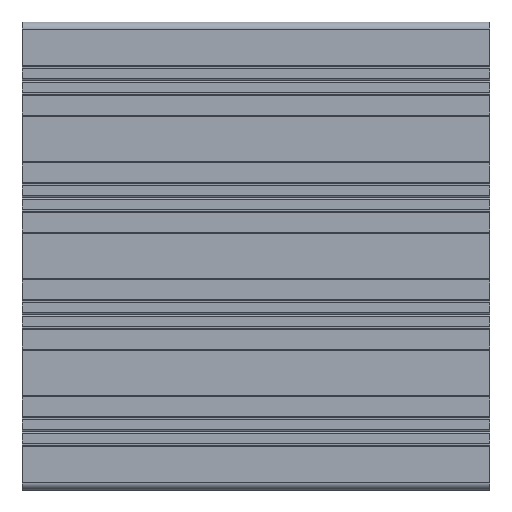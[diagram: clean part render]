
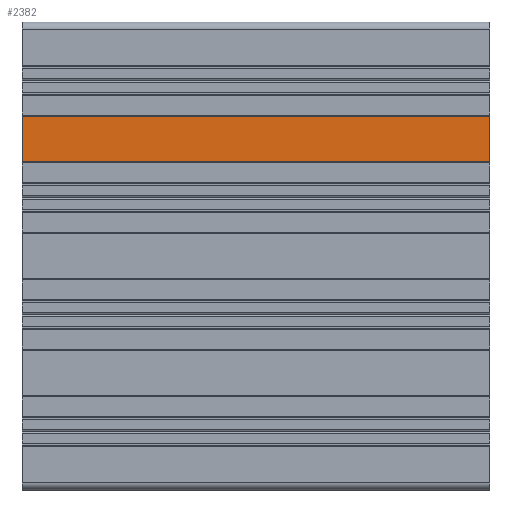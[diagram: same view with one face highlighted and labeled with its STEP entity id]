
A CAD part, left-side view. The second image highlights one B-rep face of the part: STEP entity #2382.
In plain terms, the highlighted planar face has unit normal (-1, 0, 0).
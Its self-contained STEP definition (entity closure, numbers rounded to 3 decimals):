
#2382 = ADVANCED_FACE( '', ( #5264 ), #5265, .F. );
#5264 = FACE_OUTER_BOUND( '', #8643, .T. );
#5265 = PLANE( '', #8644 );
#8643 = EDGE_LOOP( '', ( #16219, #16220, #16221, #16222 ) );
#8644 = AXIS2_PLACEMENT_3D( '', #16223, #16224, #16225 );
#16219 = ORIENTED_EDGE( '', *, *, #24513, .T. );
#16220 = ORIENTED_EDGE( '', *, *, #23067, .F. );
#16221 = ORIENTED_EDGE( '', *, *, #22380, .F. );
#16222 = ORIENTED_EDGE( '', *, *, #21672, .T. );
#16223 = CARTESIAN_POINT( '', ( -49., 200., 59.8 ) );
#16224 = DIRECTION( '', ( 1., 0., 0. ) );
#16225 = DIRECTION( '', ( 0., 0., -1. ) );
#21672 = EDGE_CURVE( '', #26442, #26440, #26443, .T. );
#22380 = EDGE_CURVE( '', #26442, #27776, #27777, .T. );
#23067 = EDGE_CURVE( '', #27776, #28958, #28962, .T. );
#24513 = EDGE_CURVE( '', #26440, #28958, #30970, .T. );
#26440 = VERTEX_POINT( '', #33347 );
#26442 = VERTEX_POINT( '', #33349 );
#26443 = LINE( '', #33350, #33351 );
#27776 = VERTEX_POINT( '', #35019 );
#27777 = LINE( '', #35020, #35021 );
#28958 = VERTEX_POINT( '', #36538 );
#28962 = LINE( '', #36543, #36544 );
#30970 = LINE( '', #39310, #39311 );
#33347 = CARTESIAN_POINT( '', ( -49., 0., 40.2 ) );
#33349 = CARTESIAN_POINT( '', ( -49., 200., 40.2 ) );
#33350 = CARTESIAN_POINT( '', ( -49., 200., 40.2 ) );
#33351 = VECTOR( '', #41668, 1000. );
#35019 = CARTESIAN_POINT( '', ( -49., 200., 59.8 ) );
#35020 = CARTESIAN_POINT( '', ( -49., 200., 59.8 ) );
#35021 = VECTOR( '', #43069, 1000. );
#36538 = CARTESIAN_POINT( '', ( -49., 0., 59.8 ) );
#36543 = CARTESIAN_POINT( '', ( -49., 200., 59.8 ) );
#36544 = VECTOR( '', #44214, 1000. );
#39310 = CARTESIAN_POINT( '', ( -49., 0., 59.8 ) );
#39311 = VECTOR( '', #45708, 1000. );
#41668 = DIRECTION( '', ( 0., -1., 0. ) );
#43069 = DIRECTION( '', ( 0., 0., 1. ) );
#44214 = DIRECTION( '', ( 0., -1., 0. ) );
#45708 = DIRECTION( '', ( 0., 0., 1. ) );
